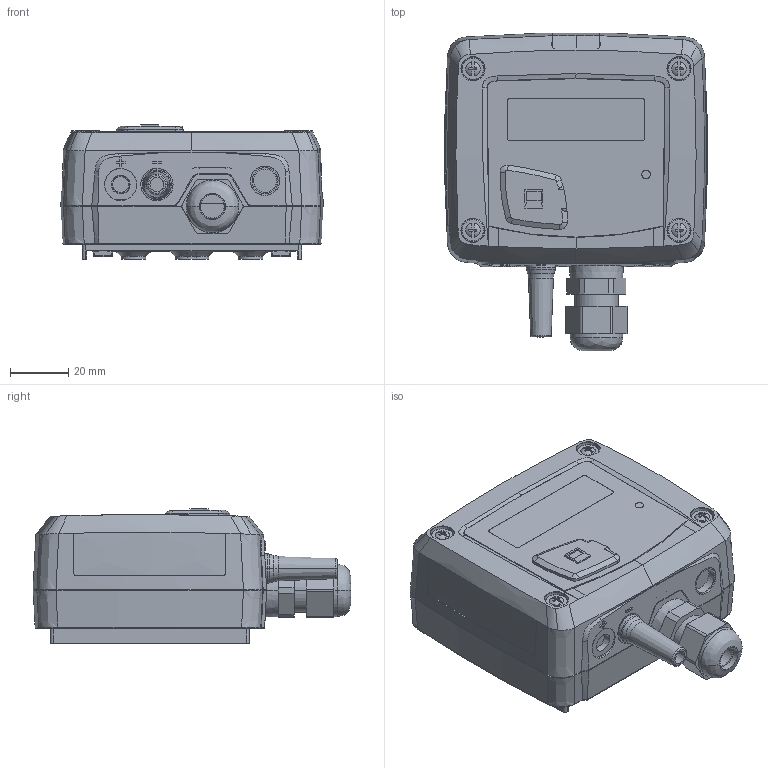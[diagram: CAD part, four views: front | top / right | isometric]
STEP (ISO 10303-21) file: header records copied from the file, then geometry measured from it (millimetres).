
FILE_DESCRIPTION((''),'2;1');
FILE_NAME('CTV110_D_SW0001','2016-06-23T',('REFT'),(''),'PRO/ENGINEER BY PARAMETRIC TECHNOLOGY CORPORATION, 2012420','PRO/ENGINEER BY PARAMETRIC TECHNOLOGY CORPORATION, 2012420','');
FILE_SCHEMA(('CONFIG_CONTROL_DESIGN'));
Products named in the file (1): CTV110_D_SW0001
Bounding box: 89.77 x 108.64 x 46.1 mm (x, y, z)
Volume: 272113.1 mm3; surface area: 50149.9 mm2
Topology: 1 solids, 2 shells, 1721 faces, 4527 edges, 2933 vertices
Faces by surface type: plane 890, extrusion 339, cylinder 248, bspline 102, cone 93, sphere 24, torus 23, revolution 2
Entity records: 59901 total; most frequent: CARTESIAN_POINT 19189, ORIENTED_EDGE 9050, DIRECTION 7040, EDGE_CURVE 4525, VECTOR 3166, VERTEX_POINT 2933, LINE 2827, AXIS2_PLACEMENT_3D 1936
